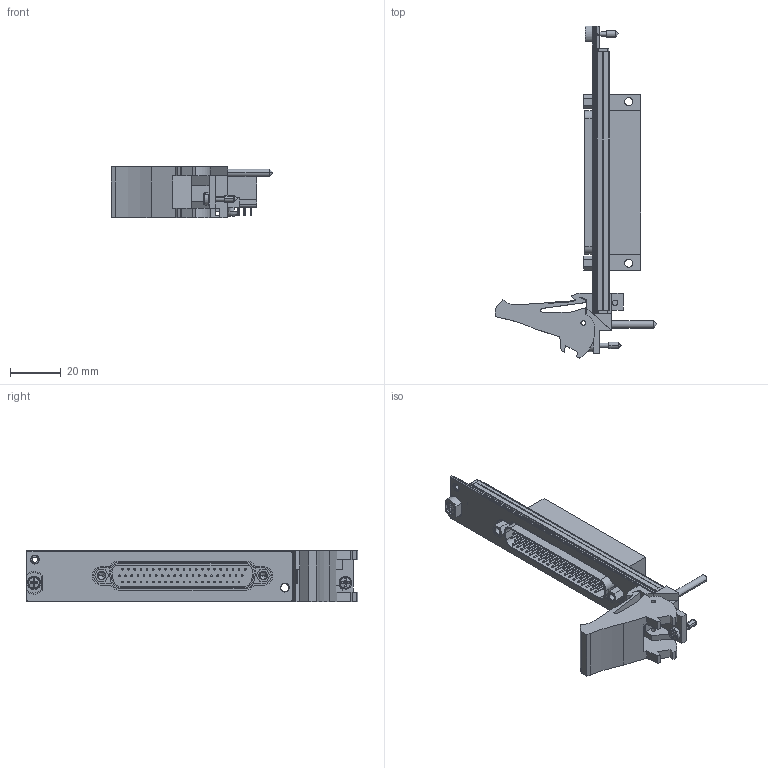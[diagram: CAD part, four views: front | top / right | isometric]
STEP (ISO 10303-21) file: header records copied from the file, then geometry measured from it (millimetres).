
FILE_DESCRIPTION((''),'2;1');
FILE_NAME('CU_PXI-2568','2009-09-09T',('jjorden'),(''),'PRO/ENGINEER BY PARAMETRIC TECHNOLOGY CORPORATION, 2006080','PRO/ENGINEER BY PARAMETRIC TECHNOLOGY CORPORATION, 2006080','');
FILE_SCHEMA(('CONFIG_CONTROL_DESIGN'));
Length unit declared in the file: inch
Products named in the file (1): CU_PXI-2568
Bounding box: 63.53 x 130.47 x 20.31 mm (x, y, z)
Volume: 27389.3 mm3; surface area: 21686.6 mm2
Topology: 2 solids, 2 shells, 877 faces, 2069 edges, 1342 vertices
Faces by surface type: plane 437, cylinder 383, cone 31, sphere 11, torus 9, bspline 6
Entity records: 25842 total; most frequent: CARTESIAN_POINT 4814, DIRECTION 4636, ORIENTED_EDGE 4114, EDGE_CURVE 2057, AXIS2_PLACEMENT_3D 1757, VERTEX_POINT 1361, VECTOR 1122, LINE 1122
